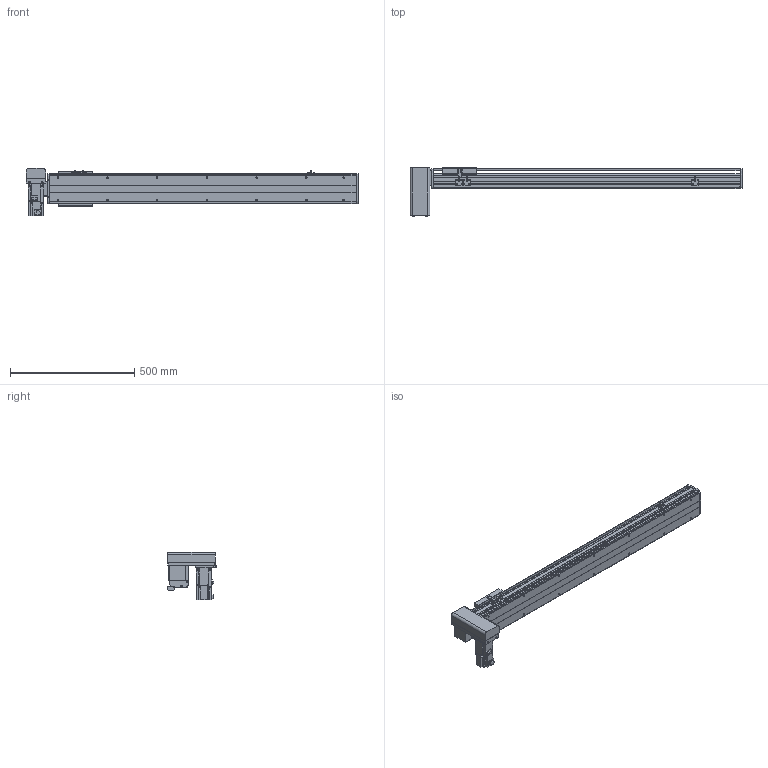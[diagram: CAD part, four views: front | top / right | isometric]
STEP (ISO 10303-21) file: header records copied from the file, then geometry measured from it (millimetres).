
FILE_DESCRIPTION(/* description */ ('STEP AP214'),/* implementation_level */ '2;1');
FILE_NAME(/* name */ 'PBS120-P40-S950-RD-T40-C1-N(0)',/* time_stamp */ '2022-06-06T02:41:22+02:00',/* author */ ('License CC BY-ND 4.0'),/* organization */ ('CADENAS'),/* preprocessor_version */ 'ST-DEVELOPER v18.102',/* originating_system */ 'PARTsolutions',/* authorisation */ ' ');
FILE_SCHEMA (('AUTOMOTIVE_DESIGN {1 0 10303 214 3 1 1}'));
Length unit declared in the file: millimetre
Products named in the file (7): PBS120-P40-S950-RD-T40-C1-N(0); PBS120_sensor; PBS120_plant; PBS120_sliser; T40-p1; PBS120T-RD_motors; PBS120-S950()_body
Assembly tree (8 placements, depth 2):
  PBS120-P40-S950-RD-T40-C1-N(0)
    PBS120_sensor  x3
    PBS120_plant
    PBS120_sliser
    T40-p1
    PBS120T-RD_motors
    PBS120-S950()_body
Bounding box: 1336 x 196 x 189.7 mm (x, y, z)
Volume: 5798548.5 mm3; surface area: 1127829.9 mm2
Topology: 8 solids, 8 shells, 822 faces, 2146 edges, 1381 vertices
Faces by surface type: plane 547, cylinder 227, cone 46, torus 2
Full cylindrical faces by diameter (mm): 2.459 x6, 3.242 x4, 4 x2, 4.134 x4, 4.5 x10, 4.917 x18, 5.5 x11, 6 x2, 6.6 x1, 7 x2, 8.5 x4, 9 x4, 12 x1, 14 x1, 30 x2, 40 x1, 50 x2
Entity records: 21474 total; most frequent: DIRECTION 3716, CARTESIAN_POINT 3659, ORIENTED_EDGE 3490, EDGE_CURVE 1745, AXIS2_PLACEMENT_3D 1244, LINE 1228, VECTOR 1228, VERTEX_POINT 1187
